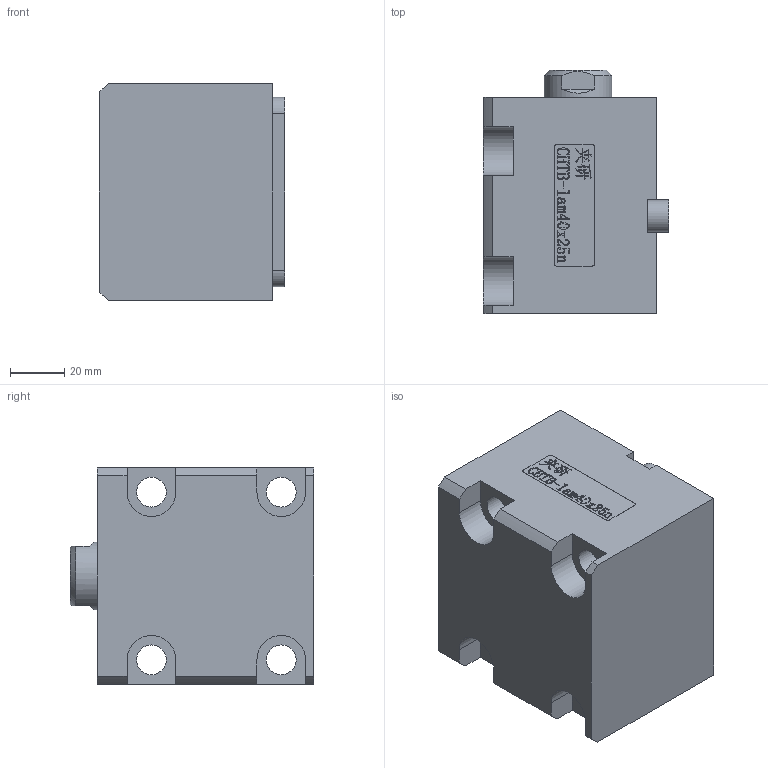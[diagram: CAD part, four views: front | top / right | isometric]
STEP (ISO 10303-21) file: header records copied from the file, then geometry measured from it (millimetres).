
FILE_DESCRIPTION(/* description */ (''),/* implementation_level */ '2;1');
FILE_NAME(/* name */ 'CHTB-lam40x25n.stp',/* time_stamp */ '2022-04-29T17:27:43+08:00',/* author */ (''),/* organization */ (''),/* preprocessor_version */ 'ST-DEVELOPER v16.7',/* originating_system */ 'SIEMENS PLM Software NX 12.0',/* authorisation */ '');
FILE_SCHEMA (('AUTOMOTIVE_DESIGN { 1 0 10303 214 3 1 1 1 }'));
Length unit declared in the file: millimetre
Products named in the file (1): CHTB-lam40x25n
Bounding box: 68.5 x 90 x 80 mm (x, y, z)
Volume: 355174 mm3; surface area: 76335.8 mm2
Topology: 4 solids, 4 shells, 481 faces, 1317 edges, 880 vertices
Faces by surface type: plane 319, extrusion 102, cylinder 39, torus 10, bspline 6, cone 5
Full cylindrical faces by diameter (mm): 4.2 x2, 5 x3, 11 x4, 12 x2, 14 x1, 25 x2, 29 x1, 34 x2, 40 x4, 45 x1
Entity records: 21672 total; most frequent: CARTESIAN_POINT 7394, ORIENTED_EDGE 2528, DIRECTION 1956, EDGE_CURVE 1264, VECTOR 1034, LINE 932, VERTEX_POINT 866, EDGE_LOOP 568
